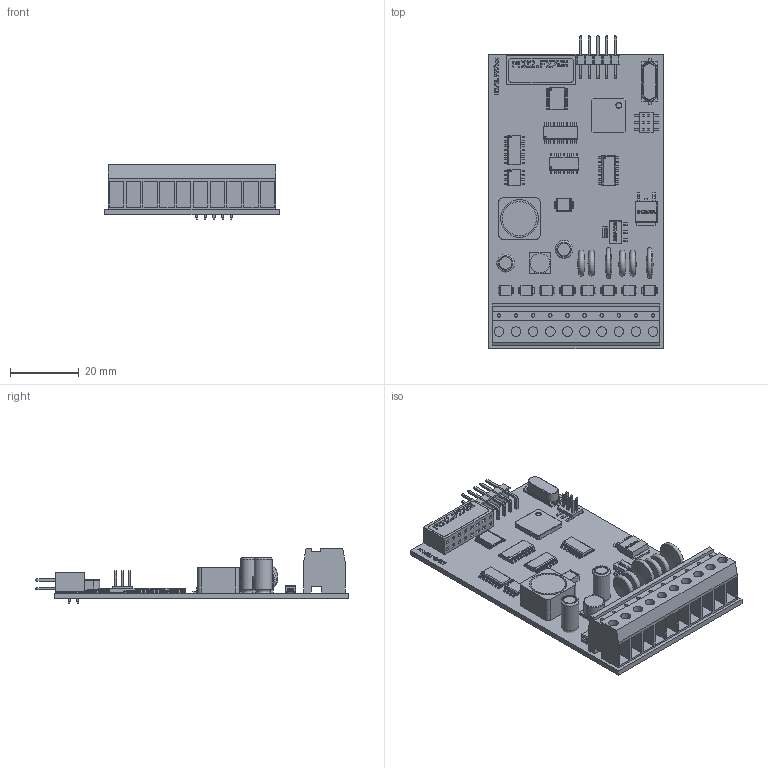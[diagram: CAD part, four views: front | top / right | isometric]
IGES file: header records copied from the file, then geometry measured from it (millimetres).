
Global section: file name: SBC_IGS_PLC_PCD2F27x0_2021-08-08.igs; native system: CAD Exchanger; preprocessor: CAD Exchanger 3.9.1 (cadexchanger.com); date: 20210808.194204; units: millimetre
Bounding box: 51 x 91.5 x 16.01 mm (x, y, z)
Volume: 16046.4 mm3; surface area: 21302.2 mm2
Topology: 153 solids, 153 shells, 3417 faces, 8907 edges, 5856 vertices
Faces by surface type: plane 2221, cylinder 556, extrusion 316, bspline 274, sphere 24, torus 15, revolution 8, cone 3
Full cylindrical faces by diameter (mm): 0.4 x6, 1 x10, 1.5 x1, 2.8 x10, 3.6 x4, 5.2 x4, 6 x1, 10 x1, 11 x1
